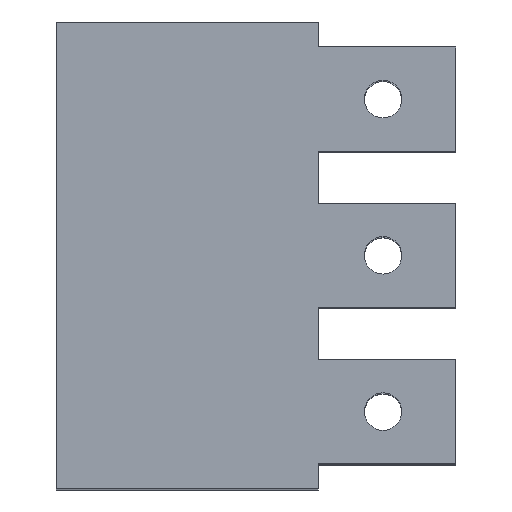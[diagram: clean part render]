
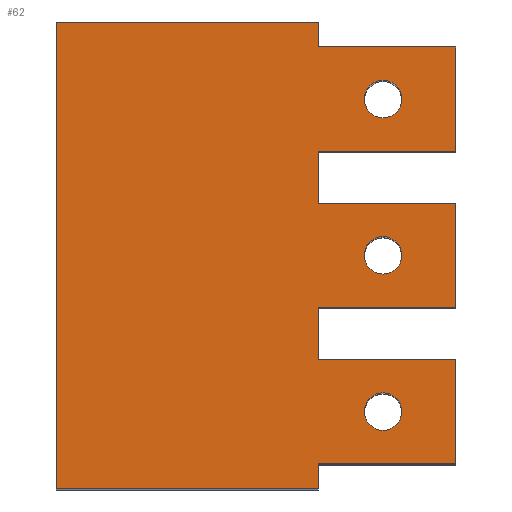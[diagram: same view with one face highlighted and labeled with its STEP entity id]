
A CAD part, top view. The second image highlights one B-rep face of the part: STEP entity #62.
In plain terms, the highlighted planar face has unit normal (0, 0, 1).
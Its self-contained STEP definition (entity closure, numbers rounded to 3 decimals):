
#62=ADVANCED_FACE('',(#390,#392,#394,#396),#398,.T.);
#390=FACE_BOUND('',#391,.T.);
#391=EDGE_LOOP('',(#684,#685,#686,#687,#688,#689,#690,#691,#692,#693,#694,#695,#696,
#697,#698,#699));
#392=FACE_BOUND('',#393,.T.);
#393=EDGE_LOOP('',(#700));
#394=FACE_BOUND('',#395,.T.);
#395=EDGE_LOOP('',(#701));
#396=FACE_BOUND('',#397,.T.);
#397=EDGE_LOOP('',(#702));
#398=PLANE('',#399);
#399=AXIS2_PLACEMENT_3D('',#400,#401,#402);
#400=CARTESIAN_POINT('',(0.,0.,186.));
#401=DIRECTION('',(0.,0.,1.));
#402=DIRECTION('',(1.,0.,0.));
#684=ORIENTED_EDGE('',*,*,#876,.T.);
#685=ORIENTED_EDGE('',*,*,#877,.T.);
#686=ORIENTED_EDGE('',*,*,#878,.T.);
#687=ORIENTED_EDGE('',*,*,#879,.T.);
#688=ORIENTED_EDGE('',*,*,#880,.T.);
#689=ORIENTED_EDGE('',*,*,#881,.T.);
#690=ORIENTED_EDGE('',*,*,#882,.T.);
#691=ORIENTED_EDGE('',*,*,#883,.T.);
#692=ORIENTED_EDGE('',*,*,#884,.F.);
#693=ORIENTED_EDGE('',*,*,#885,.F.);
#694=ORIENTED_EDGE('',*,*,#886,.T.);
#695=ORIENTED_EDGE('',*,*,#887,.T.);
#696=ORIENTED_EDGE('',*,*,#888,.T.);
#697=ORIENTED_EDGE('',*,*,#889,.T.);
#698=ORIENTED_EDGE('',*,*,#890,.T.);
#699=ORIENTED_EDGE('',*,*,#891,.T.);
#700=ORIENTED_EDGE('',*,*,#892,.T.);
#701=ORIENTED_EDGE('',*,*,#893,.T.);
#702=ORIENTED_EDGE('',*,*,#894,.T.);
#876=EDGE_CURVE('',#991,#992,#993,.F.);
#877=EDGE_CURVE('',#992,#994,#995,.T.);
#878=EDGE_CURVE('',#994,#996,#997,.F.);
#879=EDGE_CURVE('',#996,#998,#999,.F.);
#880=EDGE_CURVE('',#998,#1000,#1001,.F.);
#881=EDGE_CURVE('',#1000,#1002,#1003,.T.);
#882=EDGE_CURVE('',#1002,#1004,#1005,.F.);
#883=EDGE_CURVE('',#1004,#1006,#1007,.F.);
#884=EDGE_CURVE('',#1008,#1006,#1009,.T.);
#885=EDGE_CURVE('',#1010,#1008,#1011,.T.);
#886=EDGE_CURVE('',#1010,#1012,#1013,.T.);
#887=EDGE_CURVE('',#1012,#1014,#1015,.F.);
#888=EDGE_CURVE('',#1014,#1016,#1017,.F.);
#889=EDGE_CURVE('',#1016,#1018,#1019,.T.);
#890=EDGE_CURVE('',#1018,#1020,#1021,.F.);
#891=EDGE_CURVE('',#1020,#991,#1022,.F.);
#892=EDGE_CURVE('',#1023,#1023,#1024,.T.);
#893=EDGE_CURVE('',#1025,#1025,#1026,.T.);
#894=EDGE_CURVE('',#1027,#1027,#1028,.T.);
#991=VERTEX_POINT('',#1196);
#992=VERTEX_POINT('',#1197);
#993=LINE('',#1198,#1199);
#994=VERTEX_POINT('',#1201);
#995=LINE('',#1202,#1203);
#996=VERTEX_POINT('',#1205);
#997=LINE('',#1206,#1207);
#998=VERTEX_POINT('',#1209);
#999=LINE('',#1210,#1211);
#1000=VERTEX_POINT('',#1213);
#1001=LINE('',#1214,#1215);
#1002=VERTEX_POINT('',#1217);
#1003=LINE('',#1218,#1219);
#1004=VERTEX_POINT('',#1221);
#1005=LINE('',#1222,#1223);
#1006=VERTEX_POINT('',#1225);
#1007=LINE('',#1226,#1227);
#1008=VERTEX_POINT('',#1229);
#1009=LINE('',#1230,#1231);
#1010=VERTEX_POINT('',#1233);
#1011=LINE('',#1234,#1235);
#1012=VERTEX_POINT('',#1237);
#1013=LINE('',#1238,#1239);
#1014=VERTEX_POINT('',#1241);
#1015=LINE('',#1242,#1243);
#1016=VERTEX_POINT('',#1245);
#1017=LINE('',#1246,#1247);
#1018=VERTEX_POINT('',#1249);
#1019=LINE('',#1250,#1251);
#1020=VERTEX_POINT('',#1253);
#1021=LINE('',#1254,#1255);
#1022=LINE('',#1257,#1258);
#1023=VERTEX_POINT('',#1260);
#1024=CIRCLE('',#1261,4.5);
#1025=VERTEX_POINT('',#1265);
#1026=CIRCLE('',#1266,4.5);
#1027=VERTEX_POINT('',#1270);
#1028=CIRCLE('',#1271,4.5);
#1196=CARTESIAN_POINT('',(63.,43.5,186.));
#1197=CARTESIAN_POINT('',(96.,43.5,186.));
#1198=CARTESIAN_POINT('',(96.,43.5,186.));
#1199=VECTOR('',#1200,1.);
#1200=DIRECTION('',(-1.,0.,0.));
#1201=CARTESIAN_POINT('',(96.,68.5,186.));
#1202=CARTESIAN_POINT('',(96.,43.5,186.));
#1203=VECTOR('',#1204,1.);
#1204=DIRECTION('',(0.,1.,0.));
#1205=CARTESIAN_POINT('',(63.,68.5,186.));
#1206=CARTESIAN_POINT('',(63.,68.5,186.));
#1207=VECTOR('',#1208,1.);
#1208=DIRECTION('',(1.,0.,0.));
#1209=CARTESIAN_POINT('',(63.,81.,186.));
#1210=CARTESIAN_POINT('',(63.,81.,186.));
#1211=VECTOR('',#1212,1.);
#1212=DIRECTION('',(0.,-1.,0.));
#1213=CARTESIAN_POINT('',(96.,81.,186.));
#1214=CARTESIAN_POINT('',(96.,81.,186.));
#1215=VECTOR('',#1216,1.);
#1216=DIRECTION('',(-1.,0.,0.));
#1217=CARTESIAN_POINT('',(96.,106.,186.));
#1218=CARTESIAN_POINT('',(96.,81.,186.));
#1219=VECTOR('',#1220,1.);
#1220=DIRECTION('',(0.,1.,0.));
#1221=CARTESIAN_POINT('',(63.,106.,186.));
#1222=CARTESIAN_POINT('',(63.,106.,186.));
#1223=VECTOR('',#1224,1.);
#1224=DIRECTION('',(1.,0.,0.));
#1225=CARTESIAN_POINT('',(63.,112.,186.));
#1226=CARTESIAN_POINT('',(63.,112.,186.));
#1227=VECTOR('',#1228,1.);
#1228=DIRECTION('',(0.,-1.,0.));
#1229=CARTESIAN_POINT('',(0.,112.,186.));
#1230=CARTESIAN_POINT('',(0.,112.,186.));
#1231=VECTOR('',#1232,1.);
#1232=DIRECTION('',(1.,0.,0.));
#1233=CARTESIAN_POINT('',(0.,0.,186.));
#1234=CARTESIAN_POINT('',(0.,0.,186.));
#1235=VECTOR('',#1236,1.);
#1236=DIRECTION('',(0.,1.,0.));
#1237=CARTESIAN_POINT('',(63.,0.,186.));
#1238=CARTESIAN_POINT('',(0.,0.,186.));
#1239=VECTOR('',#1240,1.);
#1240=DIRECTION('',(1.,0.,0.));
#1241=CARTESIAN_POINT('',(63.,6.,186.));
#1242=CARTESIAN_POINT('',(63.,6.,186.));
#1243=VECTOR('',#1244,1.);
#1244=DIRECTION('',(0.,-1.,0.));
#1245=CARTESIAN_POINT('',(96.,6.,186.));
#1246=CARTESIAN_POINT('',(96.,6.,186.));
#1247=VECTOR('',#1248,1.);
#1248=DIRECTION('',(-1.,0.,0.));
#1249=CARTESIAN_POINT('',(96.,31.,186.));
#1250=CARTESIAN_POINT('',(96.,6.,186.));
#1251=VECTOR('',#1252,1.);
#1252=DIRECTION('',(0.,1.,0.));
#1253=CARTESIAN_POINT('',(63.,31.,186.));
#1254=CARTESIAN_POINT('',(63.,31.,186.));
#1255=VECTOR('',#1256,1.);
#1256=DIRECTION('',(1.,0.,0.));
#1257=CARTESIAN_POINT('',(63.,43.5,186.));
#1258=VECTOR('',#1259,1.);
#1259=DIRECTION('',(0.,-1.,0.));
#1260=CARTESIAN_POINT('',(74.,18.5,186.));
#1261=AXIS2_PLACEMENT_3D('',#1262,#1263,#1264);
#1262=CARTESIAN_POINT('',(78.5,18.5,186.));
#1263=DIRECTION('',(-0.,-0.,-1.));
#1264=DIRECTION('',(-1.,0.,0.));
#1265=CARTESIAN_POINT('',(74.,56.,186.));
#1266=AXIS2_PLACEMENT_3D('',#1267,#1268,#1269);
#1267=CARTESIAN_POINT('',(78.5,56.,186.));
#1268=DIRECTION('',(-0.,-0.,-1.));
#1269=DIRECTION('',(-1.,0.,0.));
#1270=CARTESIAN_POINT('',(74.,93.5,186.));
#1271=AXIS2_PLACEMENT_3D('',#1272,#1273,#1274);
#1272=CARTESIAN_POINT('',(78.5,93.5,186.));
#1273=DIRECTION('',(-0.,-0.,-1.));
#1274=DIRECTION('',(-1.,0.,0.));
